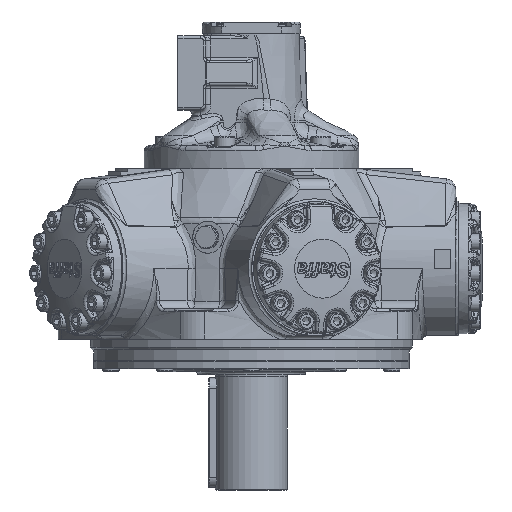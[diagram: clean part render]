
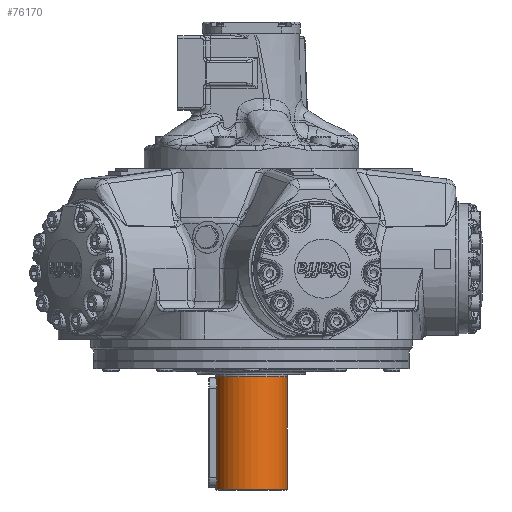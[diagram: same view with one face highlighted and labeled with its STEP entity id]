
A CAD part, left-side view. The second image highlights one B-rep face of the part: STEP entity #76170.
In plain terms, the highlighted cylindrical face has radius 42.501 mm (diameter 85.001 mm), a full revolution.
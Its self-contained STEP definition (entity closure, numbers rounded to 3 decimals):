
#3905=B_SPLINE_CURVE_WITH_KNOTS('',3,(#135021,#135022,#135023,#135024,#135025,
#135026,#135027,#135028,#135029,#135030,#135031,#135032,#135033,#135034,
#135035,#135036,#135037,#135038),.UNSPECIFIED.,.F.,.F.,(4,2,2,2,2,2,2,2,
4),(-3.643,-3.187,-2.732,-2.277,
-1.821,-1.366,-0.911,-0.455,
0.),.UNSPECIFIED.);
#3906=B_SPLINE_CURVE_WITH_KNOTS('',3,(#135073,#135074,#135075,#135076),
 .UNSPECIFIED.,.F.,.F.,(4,4),(3.614,3.643),
 .UNSPECIFIED.);
#3907=B_SPLINE_CURVE_WITH_KNOTS('',3,(#135078,#135079,#135080,#135081),
 .UNSPECIFIED.,.F.,.F.,(4,4),(0.,0.029),.UNSPECIFIED.);
#3908=B_SPLINE_CURVE_WITH_KNOTS('',3,(#135158,#135159,#135160,#135161,#135162,
#135163,#135164,#135165,#135166,#135167),.UNSPECIFIED.,.F.,.F.,(4,2,2,2,
4),(-1.821,-1.366,-0.911,-0.455,
0.),.UNSPECIFIED.);
#3909=B_SPLINE_CURVE_WITH_KNOTS('',3,(#135168,#135169,#135170,#135171,#135172,
#135173,#135174,#135175,#135176,#135177),.UNSPECIFIED.,.F.,.F.,(4,2,2,2,
4),(-3.642,-3.186,-2.731,-2.276,
-1.821),.UNSPECIFIED.);
#7610=LINE('',#135046,#11061);
#7615=LINE('',#135061,#11066);
#7637=LINE('',#135144,#11088);
#7639=LINE('',#135151,#11090);
#7649=LINE('',#135235,#11100);
#11061=VECTOR('',#89924,10.);
#11066=VECTOR('',#89937,10.);
#11088=VECTOR('',#90009,10.);
#11090=VECTOR('',#90017,10.);
#11100=VECTOR('',#90079,42.501);
#14079=CYLINDRICAL_SURFACE('',#81455,42.501);
#15329=FACE_BOUND('',#21514,.T.);
#16636=FACE_OUTER_BOUND('',#21513,.T.);
#21513=EDGE_LOOP('',(#51893,#51894,#51895,#51896,#51897));
#21514=EDGE_LOOP('',(#51898,#51899,#51900,#51901,#51902,#51903,#51904,#51905,
#51906));
#26243=CIRCLE('',#81421,42.501);
#26245=CIRCLE('',#81424,42.501);
#26246=CIRCLE('',#81425,42.501);
#29994=VERTEX_POINT('',#135019);
#29995=VERTEX_POINT('',#135020);
#29998=VERTEX_POINT('',#135045);
#30004=VERTEX_POINT('',#135060);
#30006=VERTEX_POINT('',#135066);
#30009=VERTEX_POINT('',#135071);
#30020=VERTEX_POINT('',#135126);
#30022=VERTEX_POINT('',#135132);
#30023=VERTEX_POINT('',#135134);
#30026=VERTEX_POINT('',#135142);
#30028=VERTEX_POINT('',#135150);
#30030=VERTEX_POINT('',#135157);
#37818=EDGE_CURVE('',#29994,#29995,#3905,.T.);
#37822=EDGE_CURVE('',#29998,#29994,#7610,.T.);
#37829=EDGE_CURVE('',#29995,#30004,#7615,.T.);
#37835=EDGE_CURVE('',#30009,#29998,#3906,.T.);
#37837=EDGE_CURVE('',#30004,#30006,#3907,.T.);
#37858=EDGE_CURVE('',#30020,#30020,#26243,.T.);
#37862=EDGE_CURVE('',#30022,#30023,#26245,.T.);
#37863=EDGE_CURVE('',#30023,#30022,#26246,.T.);
#37867=EDGE_CURVE('',#30009,#30026,#7637,.T.);
#37870=EDGE_CURVE('',#30028,#30006,#7639,.T.);
#37874=EDGE_CURVE('',#30030,#30028,#3908,.T.);
#37875=EDGE_CURVE('',#30026,#30030,#3909,.T.);
#37897=EDGE_CURVE('',#30023,#30020,#7649,.T.);
#51893=ORIENTED_EDGE('',*,*,#37862,.F.);
#51894=ORIENTED_EDGE('',*,*,#37863,.F.);
#51895=ORIENTED_EDGE('',*,*,#37897,.T.);
#51896=ORIENTED_EDGE('',*,*,#37858,.T.);
#51897=ORIENTED_EDGE('',*,*,#37897,.F.);
#51898=ORIENTED_EDGE('',*,*,#37837,.F.);
#51899=ORIENTED_EDGE('',*,*,#37829,.F.);
#51900=ORIENTED_EDGE('',*,*,#37818,.F.);
#51901=ORIENTED_EDGE('',*,*,#37822,.F.);
#51902=ORIENTED_EDGE('',*,*,#37835,.F.);
#51903=ORIENTED_EDGE('',*,*,#37867,.T.);
#51904=ORIENTED_EDGE('',*,*,#37875,.T.);
#51905=ORIENTED_EDGE('',*,*,#37874,.T.);
#51906=ORIENTED_EDGE('',*,*,#37870,.T.);
#76170=ADVANCED_FACE('',(#16636,#15329),#14079,.T.);
#81421=AXIS2_PLACEMENT_3D('',#135127,#89992,#89993);
#81424=AXIS2_PLACEMENT_3D('',#135135,#90000,#90001);
#81425=AXIS2_PLACEMENT_3D('',#135136,#90002,#90003);
#81455=AXIS2_PLACEMENT_3D('',#135234,#90077,#90078);
#89924=DIRECTION('',(0.,0.,-1.));
#89937=DIRECTION('',(0.,0.,1.));
#89992=DIRECTION('center_axis',(0.,0.,
-1.));
#89993=DIRECTION('ref_axis',(-1.,0.,0.));
#90000=DIRECTION('center_axis',(0.,0.,
-1.));
#90001=DIRECTION('ref_axis',(0.,-1.,0.));
#90002=DIRECTION('center_axis',(0.,0.,
-1.));
#90003=DIRECTION('ref_axis',(0.,-1.,0.));
#90009=DIRECTION('',(0.,0.,1.));
#90017=DIRECTION('',(0.,0.,-1.));
#90077=DIRECTION('center_axis',(0.,0.,
-1.));
#90078=DIRECTION('ref_axis',(0.,1.,0.));
#90079=DIRECTION('',(0.,0.,1.));
#135019=CARTESIAN_POINT('',(12.017,40.766,-246.979));
#135020=CARTESIAN_POINT('',(-12.017,40.766,-246.979));
#135021=CARTESIAN_POINT('Ctrl Pts',(12.016,40.766,-246.979));
#135022=CARTESIAN_POINT('Ctrl Pts',(12.016,40.766,-248.497));
#135023=CARTESIAN_POINT('Ctrl Pts',(11.711,40.86,-250.11));
#135024=CARTESIAN_POINT('Ctrl Pts',(10.483,41.192,-253.068));
#135025=CARTESIAN_POINT('Ctrl Pts',(9.559,41.426,-254.414));
#135026=CARTESIAN_POINT('Ctrl Pts',(7.435,41.859,-256.538));
#135027=CARTESIAN_POINT('Ctrl Pts',(6.089,42.088,-257.462));
#135028=CARTESIAN_POINT('Ctrl Pts',(3.131,42.411,-258.691));
#135029=CARTESIAN_POINT('Ctrl Pts',(1.518,42.501,-258.996));
#135030=CARTESIAN_POINT('Ctrl Pts',(-1.518,42.501,-258.996));
#135031=CARTESIAN_POINT('Ctrl Pts',(-3.131,42.411,-258.691));
#135032=CARTESIAN_POINT('Ctrl Pts',(-6.089,42.088,
-257.462));
#135033=CARTESIAN_POINT('Ctrl Pts',(-7.435,41.859,
-256.538));
#135034=CARTESIAN_POINT('Ctrl Pts',(-9.559,41.426,
-254.414));
#135035=CARTESIAN_POINT('Ctrl Pts',(-10.483,41.192,
-253.068));
#135036=CARTESIAN_POINT('Ctrl Pts',(-11.711,40.86,-250.11));
#135037=CARTESIAN_POINT('Ctrl Pts',(-12.017,40.766,
-248.497));
#135038=CARTESIAN_POINT('Ctrl Pts',(-12.017,40.766,
-246.979));
#135045=CARTESIAN_POINT('',(12.017,40.766,-141.412));
#135046=CARTESIAN_POINT('',(12.017,40.766,-194.958));
#135060=CARTESIAN_POINT('',(-12.017,40.766,-141.412));
#135061=CARTESIAN_POINT('',(-12.017,40.766,-194.958));
#135066=CARTESIAN_POINT('',(-12.013,40.767,-141.122));
#135071=CARTESIAN_POINT('',(12.013,40.767,-141.122));
#135073=CARTESIAN_POINT('Ctrl Pts',(12.013,40.767,-141.122));
#135074=CARTESIAN_POINT('Ctrl Pts',(12.015,40.767,-141.219));
#135075=CARTESIAN_POINT('Ctrl Pts',(12.016,40.766,-141.316));
#135076=CARTESIAN_POINT('Ctrl Pts',(12.016,40.766,-141.412));
#135078=CARTESIAN_POINT('Ctrl Pts',(-12.017,40.766,
-141.412));
#135079=CARTESIAN_POINT('Ctrl Pts',(-12.017,40.766,
-141.316));
#135080=CARTESIAN_POINT('Ctrl Pts',(-12.015,40.767,
-141.219));
#135081=CARTESIAN_POINT('Ctrl Pts',(-12.013,40.767,-141.122));
#135126=CARTESIAN_POINT('',(0.,-42.501,-127.927));
#135127=CARTESIAN_POINT('Origin',(0.,0.,
-127.927));
#135132=CARTESIAN_POINT('',(0.,42.501,-261.227));
#135134=CARTESIAN_POINT('',(0.,-42.501,-261.227));
#135135=CARTESIAN_POINT('Origin',(0.,0.,
-261.227));
#135136=CARTESIAN_POINT('Origin',(0.,0.,
-261.227));
#135142=CARTESIAN_POINT('',(12.013,40.767,-140.815));
#135144=CARTESIAN_POINT('',(12.013,40.767,-194.958));
#135150=CARTESIAN_POINT('',(-12.013,40.767,-140.815));
#135151=CARTESIAN_POINT('',(-12.013,40.767,-194.958));
#135157=CARTESIAN_POINT('',(0.,42.501,-128.802));
#135158=CARTESIAN_POINT('Ctrl Pts',(0.,42.501,
-128.802));
#135159=CARTESIAN_POINT('Ctrl Pts',(-1.517,42.501,
-128.802));
#135160=CARTESIAN_POINT('Ctrl Pts',(-3.13,42.411,-129.107));
#135161=CARTESIAN_POINT('Ctrl Pts',(-6.087,42.089,
-130.336));
#135162=CARTESIAN_POINT('Ctrl Pts',(-7.433,41.86,
-131.259));
#135163=CARTESIAN_POINT('Ctrl Pts',(-9.557,41.426,
-133.383));
#135164=CARTESIAN_POINT('Ctrl Pts',(-10.48,41.193,
-134.728));
#135165=CARTESIAN_POINT('Ctrl Pts',(-11.708,40.861,
-137.685));
#135166=CARTESIAN_POINT('Ctrl Pts',(-12.013,40.767,-139.298));
#135167=CARTESIAN_POINT('Ctrl Pts',(-12.013,40.767,-140.815));
#135168=CARTESIAN_POINT('Ctrl Pts',(12.013,40.767,-140.815));
#135169=CARTESIAN_POINT('Ctrl Pts',(12.013,40.767,-139.298));
#135170=CARTESIAN_POINT('Ctrl Pts',(11.708,40.861,-137.685));
#135171=CARTESIAN_POINT('Ctrl Pts',(10.48,41.193,-134.728));
#135172=CARTESIAN_POINT('Ctrl Pts',(9.557,41.426,-133.383));
#135173=CARTESIAN_POINT('Ctrl Pts',(7.433,41.86,-131.259));
#135174=CARTESIAN_POINT('Ctrl Pts',(6.087,42.089,-130.336));
#135175=CARTESIAN_POINT('Ctrl Pts',(3.13,42.411,-129.107));
#135176=CARTESIAN_POINT('Ctrl Pts',(1.517,42.501,-128.802));
#135177=CARTESIAN_POINT('Ctrl Pts',(0.,42.501,
-128.802));
#135234=CARTESIAN_POINT('Origin',(0.,0.,
-194.958));
#135235=CARTESIAN_POINT('',(0.,-42.501,-194.958));
